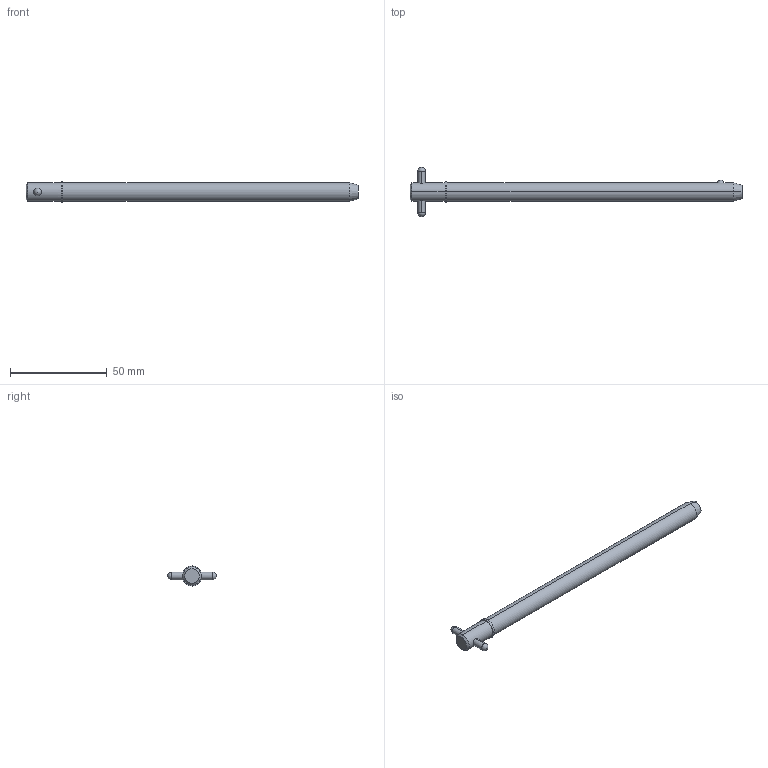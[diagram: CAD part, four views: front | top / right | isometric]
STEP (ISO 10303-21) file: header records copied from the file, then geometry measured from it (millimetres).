
FILE_DESCRIPTION (( 'STEP AP203' ), '1' );
FILE_NAME ('33018.W3755.step', '2024-11-19T17:12:14', ( '' ), ( '' ), 'SwSTEP 2.0', 'SolidWorks 2019', '' );
FILE_SCHEMA (( 'CONFIG_CONTROL_DESIGN' ));
Length unit declared in the file: millimetre
Products named in the file (3): Part2_33018.W3755; 33018.W3755; Part1_33018.W3755
Assembly tree (2 placements, depth 2):
  33018.W3755
    Part1_33018.W3755
    Part2_33018.W3755
Bounding box: 171.45 x 25.4 x 10.48 mm (x, y, z)
Volume: 12348.1 mm3; surface area: 5657.5 mm2
Topology: 2 solids, 2 shells, 22 faces, 47 edges, 30 vertices
Faces by surface type: cylinder 10, sphere 4, cone 4, plane 4
Entity records: 1023 total; most frequent: CARTESIAN_POINT 266, DIRECTION 110, ORIENTED_EDGE 82, AXIS2_PLACEMENT_3D 48, EDGE_CURVE 41, EDGE_LOOP 27, VERTEX_POINT 26, PERSON_AND_ORGANIZATION 26
